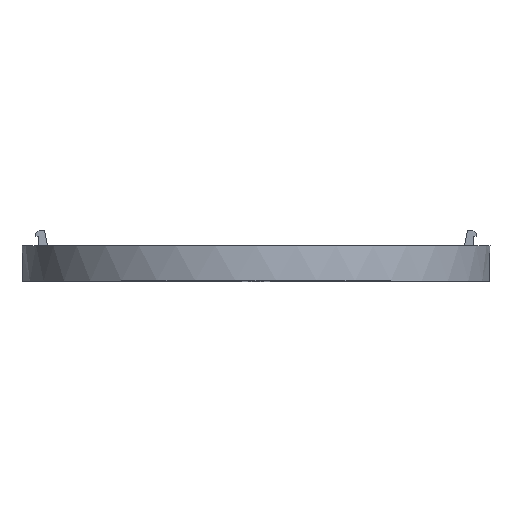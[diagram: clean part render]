
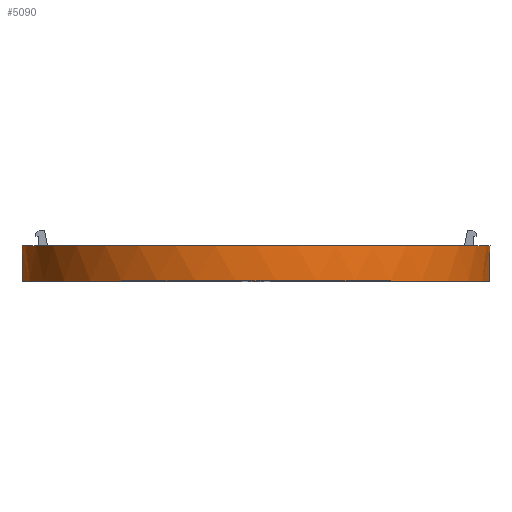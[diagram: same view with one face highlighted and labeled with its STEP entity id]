
A CAD part, top view. The second image highlights one B-rep face of the part: STEP entity #5090.
In plain terms, the highlighted cylindrical face has radius 29.8 mm (diameter 59.6 mm), a full revolution.
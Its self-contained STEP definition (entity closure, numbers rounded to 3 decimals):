
#422=CYLINDRICAL_SURFACE('',#5556,29.8);
#839=CIRCLE('',#5548,29.8);
#840=CIRCLE('',#5555,29.8);
#841=CIRCLE('',#5557,29.8);
#842=CIRCLE('',#5558,29.8);
#843=CIRCLE('',#5559,29.8);
#844=CIRCLE('',#5560,29.8);
#1077=FACE_OUTER_BOUND('',#1514,.T.);
#1514=EDGE_LOOP('',(#3986,#3987,#3988,#3989,#3990,#3991,#3992,#3993,#3994,
#3995,#3996,#3997));
#1975=LINE('',#8115,#2250);
#1979=LINE('',#8122,#2254);
#1980=LINE('',#8127,#2255);
#1981=LINE('',#8131,#2256);
#1982=LINE('',#8136,#2257);
#2250=VECTOR('',#6505,10.);
#2254=VECTOR('',#6511,10.);
#2255=VECTOR('',#6518,29.8);
#2256=VECTOR('',#6521,10.);
#2257=VECTOR('',#6526,10.);
#2712=VERTEX_POINT('',#8088);
#2721=VERTEX_POINT('',#8112);
#2722=VERTEX_POINT('',#8114);
#2723=VERTEX_POINT('',#8118);
#2724=VERTEX_POINT('',#8120);
#2725=VERTEX_POINT('',#8126);
#2726=VERTEX_POINT('',#8128);
#2727=VERTEX_POINT('',#8130);
#2728=VERTEX_POINT('',#8133);
#2729=VERTEX_POINT('',#8135);
#3198=EDGE_CURVE('',#2712,#2712,#839,.T.);
#3210=EDGE_CURVE('',#2721,#2722,#1975,.T.);
#3214=EDGE_CURVE('',#2724,#2723,#1979,.T.);
#3215=EDGE_CURVE('',#2722,#2724,#840,.T.);
#3216=EDGE_CURVE('',#2712,#2725,#1980,.T.);
#3217=EDGE_CURVE('',#2725,#2726,#841,.T.);
#3218=EDGE_CURVE('',#2726,#2727,#1981,.T.);
#3219=EDGE_CURVE('',#2727,#2723,#842,.T.);
#3220=EDGE_CURVE('',#2721,#2728,#843,.T.);
#3221=EDGE_CURVE('',#2728,#2729,#1982,.T.);
#3222=EDGE_CURVE('',#2729,#2725,#844,.T.);
#3986=ORIENTED_EDGE('',*,*,#3198,.F.);
#3987=ORIENTED_EDGE('',*,*,#3216,.T.);
#3988=ORIENTED_EDGE('',*,*,#3217,.T.);
#3989=ORIENTED_EDGE('',*,*,#3218,.T.);
#3990=ORIENTED_EDGE('',*,*,#3219,.T.);
#3991=ORIENTED_EDGE('',*,*,#3214,.F.);
#3992=ORIENTED_EDGE('',*,*,#3215,.F.);
#3993=ORIENTED_EDGE('',*,*,#3210,.F.);
#3994=ORIENTED_EDGE('',*,*,#3220,.T.);
#3995=ORIENTED_EDGE('',*,*,#3221,.T.);
#3996=ORIENTED_EDGE('',*,*,#3222,.T.);
#3997=ORIENTED_EDGE('',*,*,#3216,.F.);
#5090=ADVANCED_FACE('',(#1077),#422,.T.);
#5548=AXIS2_PLACEMENT_3D('',#8089,#6484,#6485);
#5555=AXIS2_PLACEMENT_3D('',#8124,#6514,#6515);
#5556=AXIS2_PLACEMENT_3D('',#8125,#6516,#6517);
#5557=AXIS2_PLACEMENT_3D('',#8129,#6519,#6520);
#5558=AXIS2_PLACEMENT_3D('',#8132,#6522,#6523);
#5559=AXIS2_PLACEMENT_3D('',#8134,#6524,#6525);
#5560=AXIS2_PLACEMENT_3D('',#8137,#6527,#6528);
#6484=DIRECTION('center_axis',(0.,1.,0.));
#6485=DIRECTION('ref_axis',(-1.,0.,0.));
#6505=DIRECTION('',(0.,1.,0.));
#6511=DIRECTION('',(0.,-1.,0.));
#6514=DIRECTION('center_axis',(0.,-1.,0.));
#6515=DIRECTION('ref_axis',(1.,0.,0.));
#6516=DIRECTION('center_axis',(0.,1.,0.));
#6517=DIRECTION('ref_axis',(1.,0.,0.));
#6518=DIRECTION('',(0.,-1.,0.));
#6519=DIRECTION('center_axis',(0.,1.,0.));
#6520=DIRECTION('ref_axis',(1.,0.,0.));
#6521=DIRECTION('',(0.,-1.,0.));
#6522=DIRECTION('center_axis',(0.,1.,0.));
#6523=DIRECTION('ref_axis',(1.,0.,0.));
#6524=DIRECTION('center_axis',(0.,1.,0.));
#6525=DIRECTION('ref_axis',(1.,0.,0.));
#6526=DIRECTION('',(0.,1.,0.));
#6527=DIRECTION('center_axis',(0.,1.,0.));
#6528=DIRECTION('ref_axis',(1.,0.,0.));
#8088=CARTESIAN_POINT('',(-29.8,4.5,0.));
#8089=CARTESIAN_POINT('Origin',(0.,4.5,0.));
#8112=CARTESIAN_POINT('',(29.695,0.,-2.5));
#8114=CARTESIAN_POINT('',(29.695,3.5,-2.5));
#8115=CARTESIAN_POINT('',(29.695,0.,-2.5));
#8118=CARTESIAN_POINT('',(29.695,0.,2.5));
#8120=CARTESIAN_POINT('',(29.695,3.5,2.5));
#8122=CARTESIAN_POINT('',(29.695,0.,2.5));
#8124=CARTESIAN_POINT('Origin',(0.,3.5,0.));
#8125=CARTESIAN_POINT('Origin',(0.,0.,0.));
#8126=CARTESIAN_POINT('',(-29.8,3.5,0.));
#8127=CARTESIAN_POINT('',(-29.8,0.,0.));
#8128=CARTESIAN_POINT('',(-29.695,3.5,2.5));
#8129=CARTESIAN_POINT('Origin',(0.,3.5,0.));
#8130=CARTESIAN_POINT('',(-29.695,0.,2.5));
#8131=CARTESIAN_POINT('',(-29.695,0.,2.5));
#8132=CARTESIAN_POINT('Origin',(0.,0.,0.));
#8133=CARTESIAN_POINT('',(-29.695,0.,-2.5));
#8134=CARTESIAN_POINT('Origin',(0.,0.,0.));
#8135=CARTESIAN_POINT('',(-29.695,3.5,-2.5));
#8136=CARTESIAN_POINT('',(-29.695,0.,-2.5));
#8137=CARTESIAN_POINT('Origin',(0.,3.5,0.));
